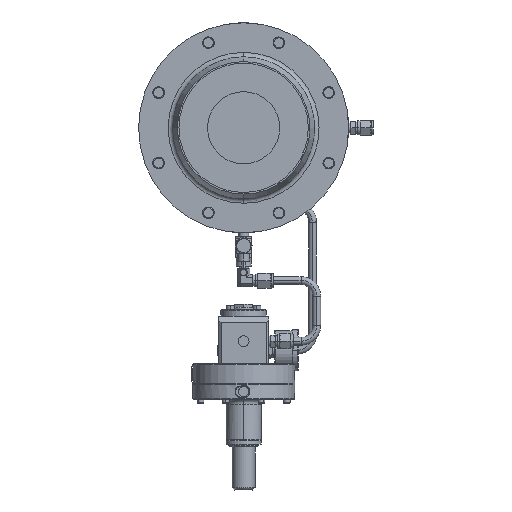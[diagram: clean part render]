
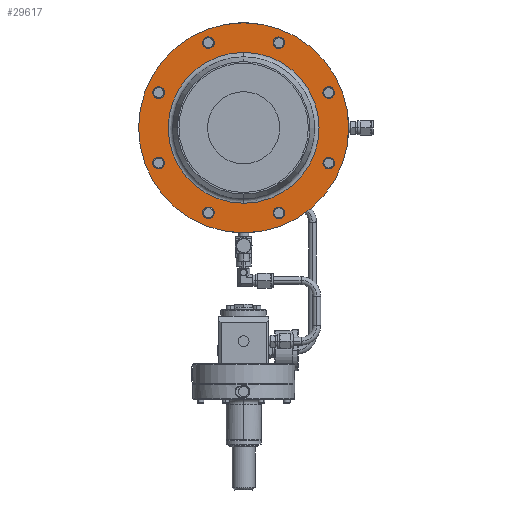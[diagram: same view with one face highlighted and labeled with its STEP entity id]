
A CAD part, front view. The second image highlights one B-rep face of the part: STEP entity #29617.
In plain terms, the highlighted planar face has unit normal (0, -1, 0).
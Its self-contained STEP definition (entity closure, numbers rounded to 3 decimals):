
#3125=CARTESIAN_POINT('',(0.,-1.95,0.));
#3126=DIRECTION('',(0.,1.,0.));
#3127=DIRECTION('',(1.,0.,0.));
#3128=AXIS2_PLACEMENT_3D('',#3125,#3126,#3127);
#3130=CARTESIAN_POINT('',(0.,-1.95,0.));
#3131=DIRECTION('',(0.,1.,0.));
#3132=DIRECTION('',(-1.,0.,0.));
#3133=AXIS2_PLACEMENT_3D('',#3130,#3131,#3132);
#3135=CARTESIAN_POINT('',(0.,-1.95,0.));
#3136=DIRECTION('',(0.,-1.,0.));
#3137=DIRECTION('',(0.006,0.,-1.));
#3138=AXIS2_PLACEMENT_3D('',#3135,#3136,#3137);
#3140=CARTESIAN_POINT('',(0.,-1.95,0.));
#3141=DIRECTION('',(0.,-1.,0.));
#3142=DIRECTION('',(-0.006,0.,1.));
#3143=AXIS2_PLACEMENT_3D('',#3140,#3141,#3142);
#3145=CARTESIAN_POINT('',(-44.965,-1.95,-108.556));
#3146=DIRECTION('',(0.,1.,0.));
#3147=DIRECTION('',(0.,0.,1.));
#3148=AXIS2_PLACEMENT_3D('',#3145,#3146,#3147);
#3150=CARTESIAN_POINT('',(-44.965,-1.95,-108.556));
#3151=DIRECTION('',(0.,1.,0.));
#3152=DIRECTION('',(0.,0.,-1.));
#3153=AXIS2_PLACEMENT_3D('',#3150,#3151,#3152);
#3155=CARTESIAN_POINT('',(44.965,-1.95,-108.556));
#3156=DIRECTION('',(0.,1.,0.));
#3157=DIRECTION('',(-0.707,0.,0.707));
#3158=AXIS2_PLACEMENT_3D('',#3155,#3156,#3157);
#3160=CARTESIAN_POINT('',(44.965,-1.95,-108.556));
#3161=DIRECTION('',(0.,1.,0.));
#3162=DIRECTION('',(0.707,0.,-0.707));
#3163=AXIS2_PLACEMENT_3D('',#3160,#3161,#3162);
#3165=CARTESIAN_POINT('',(108.556,-1.95,-44.965));
#3166=DIRECTION('',(0.,1.,0.));
#3167=DIRECTION('',(-1.,0.,0.));
#3168=AXIS2_PLACEMENT_3D('',#3165,#3166,#3167);
#3170=CARTESIAN_POINT('',(108.556,-1.95,-44.965));
#3171=DIRECTION('',(0.,1.,0.));
#3172=DIRECTION('',(1.,0.,0.));
#3173=AXIS2_PLACEMENT_3D('',#3170,#3171,#3172);
#3175=CARTESIAN_POINT('',(108.556,-1.95,44.965));
#3176=DIRECTION('',(0.,1.,0.));
#3177=DIRECTION('',(-0.707,0.,-0.707));
#3178=AXIS2_PLACEMENT_3D('',#3175,#3176,#3177);
#3180=CARTESIAN_POINT('',(108.556,-1.95,44.965));
#3181=DIRECTION('',(0.,1.,0.));
#3182=DIRECTION('',(0.707,0.,0.707));
#3183=AXIS2_PLACEMENT_3D('',#3180,#3181,#3182);
#3185=CARTESIAN_POINT('',(44.965,-1.95,108.556));
#3186=DIRECTION('',(0.,1.,0.));
#3187=DIRECTION('',(0.,0.,-1.));
#3188=AXIS2_PLACEMENT_3D('',#3185,#3186,#3187);
#3190=CARTESIAN_POINT('',(44.965,-1.95,108.556));
#3191=DIRECTION('',(0.,1.,0.));
#3192=DIRECTION('',(0.,0.,1.));
#3193=AXIS2_PLACEMENT_3D('',#3190,#3191,#3192);
#3195=CARTESIAN_POINT('',(-44.965,-1.95,108.556));
#3196=DIRECTION('',(0.,1.,0.));
#3197=DIRECTION('',(0.707,0.,-0.707));
#3198=AXIS2_PLACEMENT_3D('',#3195,#3196,#3197);
#3200=CARTESIAN_POINT('',(-44.965,-1.95,108.556));
#3201=DIRECTION('',(0.,1.,0.));
#3202=DIRECTION('',(-0.707,0.,0.707));
#3203=AXIS2_PLACEMENT_3D('',#3200,#3201,#3202);
#3205=CARTESIAN_POINT('',(-108.556,-1.95,44.965));
#3206=DIRECTION('',(0.,1.,0.));
#3207=DIRECTION('',(1.,0.,0.));
#3208=AXIS2_PLACEMENT_3D('',#3205,#3206,#3207);
#3210=CARTESIAN_POINT('',(-108.556,-1.95,44.965));
#3211=DIRECTION('',(0.,1.,0.));
#3212=DIRECTION('',(-1.,0.,0.));
#3213=AXIS2_PLACEMENT_3D('',#3210,#3211,#3212);
#3215=CARTESIAN_POINT('',(-108.556,-1.95,-44.965));
#3216=DIRECTION('',(0.,1.,0.));
#3217=DIRECTION('',(0.707,0.,0.707));
#3218=AXIS2_PLACEMENT_3D('',#3215,#3216,#3217);
#3220=CARTESIAN_POINT('',(-108.556,-1.95,-44.965));
#3221=DIRECTION('',(0.,1.,0.));
#3222=DIRECTION('',(-0.707,0.,-0.707));
#3223=AXIS2_PLACEMENT_3D('',#3220,#3221,#3222);
#3225=CARTESIAN_POINT('',(0.,-1.95,0.));
#3226=DIRECTION('',(0.,1.,0.));
#3227=DIRECTION('',(0.006,0.,-1.));
#3228=AXIS2_PLACEMENT_3D('',#3225,#3226,#3227);
#3277=CARTESIAN_POINT('',(0.,-1.95,0.));
#3278=DIRECTION('',(0.,1.,0.));
#3279=DIRECTION('',(-0.006,0.,1.));
#3280=AXIS2_PLACEMENT_3D('',#3277,#3278,#3279);
#23915=CARTESIAN_POINT('',(-134.,-1.95,0.));
#23916=CARTESIAN_POINT('',(134.,-1.95,0.));
#23917=VERTEX_POINT('',#23915);
#23918=VERTEX_POINT('',#23916);
#23927=CARTESIAN_POINT('',(0.616,-1.95,-96.233));
#23928=CARTESIAN_POINT('',(0.,-1.95,96.235));
#23929=VERTEX_POINT('',#23927);
#23930=VERTEX_POINT('',#23928);
#23931=CARTESIAN_POINT('',(0.,-1.95,-96.235));
#23932=VERTEX_POINT('',#23931);
#23933=CARTESIAN_POINT('',(-0.616,-1.95,96.233));
#23934=VERTEX_POINT('',#23933);
#24095=CARTESIAN_POINT('',(-44.965,-1.95,-101.156));
#24096=CARTESIAN_POINT('',(-44.965,-1.95,-115.956));
#24097=VERTEX_POINT('',#24095);
#24098=VERTEX_POINT('',#24096);
#24111=CARTESIAN_POINT('',(39.733,-1.95,-103.323));
#24112=CARTESIAN_POINT('',(50.198,-1.95,-113.788));
#24113=VERTEX_POINT('',#24111);
#24114=VERTEX_POINT('',#24112);
#24127=CARTESIAN_POINT('',(101.156,-1.95,-44.965));
#24128=CARTESIAN_POINT('',(115.956,-1.95,-44.965));
#24129=VERTEX_POINT('',#24127);
#24130=VERTEX_POINT('',#24128);
#24143=CARTESIAN_POINT('',(103.323,-1.95,39.733));
#24144=CARTESIAN_POINT('',(113.788,-1.95,50.198));
#24145=VERTEX_POINT('',#24143);
#24146=VERTEX_POINT('',#24144);
#24159=CARTESIAN_POINT('',(44.965,-1.95,101.156));
#24160=CARTESIAN_POINT('',(44.965,-1.95,115.956));
#24161=VERTEX_POINT('',#24159);
#24162=VERTEX_POINT('',#24160);
#24175=CARTESIAN_POINT('',(-39.733,-1.95,103.323));
#24176=CARTESIAN_POINT('',(-50.198,-1.95,113.788));
#24177=VERTEX_POINT('',#24175);
#24178=VERTEX_POINT('',#24176);
#24191=CARTESIAN_POINT('',(-101.156,-1.95,44.965));
#24192=CARTESIAN_POINT('',(-115.956,-1.95,44.965));
#24193=VERTEX_POINT('',#24191);
#24194=VERTEX_POINT('',#24192);
#24207=CARTESIAN_POINT('',(-103.323,-1.95,-39.733));
#24208=CARTESIAN_POINT('',(-113.788,-1.95,-50.198));
#24209=VERTEX_POINT('',#24207);
#24210=VERTEX_POINT('',#24208);
#29550=CARTESIAN_POINT('',(0.,-1.95,0.));
#29551=DIRECTION('',(0.,-1.,0.));
#29552=DIRECTION('',(0.,0.,1.));
#29553=AXIS2_PLACEMENT_3D('',#29550,#29551,#29552);
#29554=PLANE('',#29553);
#29555=ORIENTED_EDGE('',*,*,#29483,.T.);
#29556=ORIENTED_EDGE('',*,*,#29535,.T.);
#29557=EDGE_LOOP('',(#29555,#29556));
#29558=FACE_OUTER_BOUND('',#29557,.F.);
#29560=ORIENTED_EDGE('',*,*,#29559,.F.);
#29562=ORIENTED_EDGE('',*,*,#29561,.T.);
#29564=ORIENTED_EDGE('',*,*,#29563,.F.);
#29566=ORIENTED_EDGE('',*,*,#29565,.T.);
#29567=EDGE_LOOP('',(#29560,#29562,#29564,#29566));
#29568=FACE_BOUND('',#29567,.F.);
#29570=ORIENTED_EDGE('',*,*,#29569,.F.);
#29572=ORIENTED_EDGE('',*,*,#29571,.F.);
#29573=EDGE_LOOP('',(#29570,#29572));
#29574=FACE_BOUND('',#29573,.F.);
#29576=ORIENTED_EDGE('',*,*,#29575,.F.);
#29578=ORIENTED_EDGE('',*,*,#29577,.F.);
#29579=EDGE_LOOP('',(#29576,#29578));
#29580=FACE_BOUND('',#29579,.F.);
#29582=ORIENTED_EDGE('',*,*,#29581,.F.);
#29584=ORIENTED_EDGE('',*,*,#29583,.F.);
#29585=EDGE_LOOP('',(#29582,#29584));
#29586=FACE_BOUND('',#29585,.F.);
#29588=ORIENTED_EDGE('',*,*,#29587,.F.);
#29590=ORIENTED_EDGE('',*,*,#29589,.F.);
#29591=EDGE_LOOP('',(#29588,#29590));
#29592=FACE_BOUND('',#29591,.F.);
#29594=ORIENTED_EDGE('',*,*,#29593,.F.);
#29596=ORIENTED_EDGE('',*,*,#29595,.F.);
#29597=EDGE_LOOP('',(#29594,#29596));
#29598=FACE_BOUND('',#29597,.F.);
#29600=ORIENTED_EDGE('',*,*,#29599,.F.);
#29602=ORIENTED_EDGE('',*,*,#29601,.F.);
#29603=EDGE_LOOP('',(#29600,#29602));
#29604=FACE_BOUND('',#29603,.F.);
#29606=ORIENTED_EDGE('',*,*,#29605,.F.);
#29608=ORIENTED_EDGE('',*,*,#29607,.F.);
#29609=EDGE_LOOP('',(#29606,#29608));
#29610=FACE_BOUND('',#29609,.F.);
#29612=ORIENTED_EDGE('',*,*,#29611,.F.);
#29614=ORIENTED_EDGE('',*,*,#29613,.F.);
#29615=EDGE_LOOP('',(#29612,#29614));
#29616=FACE_BOUND('',#29615,.F.);
#29617=ADVANCED_FACE('',(#29558,#29568,#29574,#29580,#29586,#29592,#29598,
#29604,#29610,#29616),#29554,.T.);
#3129=CIRCLE('',#3128,134.);
#3134=CIRCLE('',#3133,134.);
#3139=CIRCLE('',#3138,96.235);
#3144=CIRCLE('',#3143,96.235);
#3149=CIRCLE('',#3148,7.4);
#3154=CIRCLE('',#3153,7.4);
#3159=CIRCLE('',#3158,7.4);
#3164=CIRCLE('',#3163,7.4);
#3169=CIRCLE('',#3168,7.4);
#3174=CIRCLE('',#3173,7.4);
#3179=CIRCLE('',#3178,7.4);
#3184=CIRCLE('',#3183,7.4);
#3189=CIRCLE('',#3188,7.4);
#3194=CIRCLE('',#3193,7.4);
#3199=CIRCLE('',#3198,7.4);
#3204=CIRCLE('',#3203,7.4);
#3209=CIRCLE('',#3208,7.4);
#3214=CIRCLE('',#3213,7.4);
#3219=CIRCLE('',#3218,7.4);
#3224=CIRCLE('',#3223,7.4);
#3229=CIRCLE('',#3228,96.235);
#3281=CIRCLE('',#3280,96.235);
#29483=EDGE_CURVE('',#23918,#23917,#3129,.T.);
#29535=EDGE_CURVE('',#23917,#23918,#3134,.T.);
#29559=EDGE_CURVE('',#23929,#23932,#3229,.T.);
#29561=EDGE_CURVE('',#23929,#23930,#3139,.T.);
#29563=EDGE_CURVE('',#23934,#23930,#3281,.T.);
#29565=EDGE_CURVE('',#23934,#23932,#3144,.T.);
#29569=EDGE_CURVE('',#24097,#24098,#3149,.T.);
#29571=EDGE_CURVE('',#24098,#24097,#3154,.T.);
#29575=EDGE_CURVE('',#24113,#24114,#3159,.T.);
#29577=EDGE_CURVE('',#24114,#24113,#3164,.T.);
#29581=EDGE_CURVE('',#24129,#24130,#3169,.T.);
#29583=EDGE_CURVE('',#24130,#24129,#3174,.T.);
#29587=EDGE_CURVE('',#24145,#24146,#3179,.T.);
#29589=EDGE_CURVE('',#24146,#24145,#3184,.T.);
#29593=EDGE_CURVE('',#24161,#24162,#3189,.T.);
#29595=EDGE_CURVE('',#24162,#24161,#3194,.T.);
#29599=EDGE_CURVE('',#24177,#24178,#3199,.T.);
#29601=EDGE_CURVE('',#24178,#24177,#3204,.T.);
#29605=EDGE_CURVE('',#24193,#24194,#3209,.T.);
#29607=EDGE_CURVE('',#24194,#24193,#3214,.T.);
#29611=EDGE_CURVE('',#24209,#24210,#3219,.T.);
#29613=EDGE_CURVE('',#24210,#24209,#3224,.T.);
